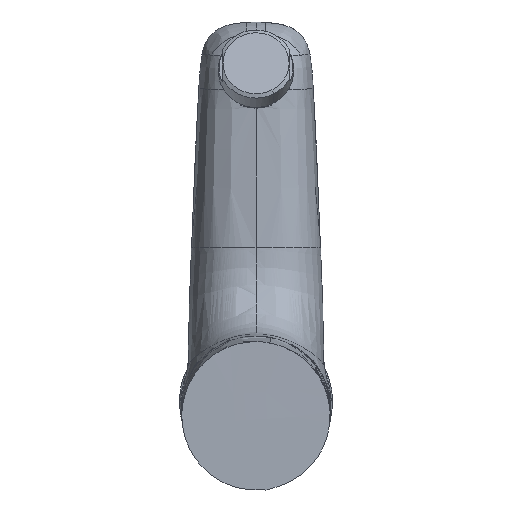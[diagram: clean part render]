
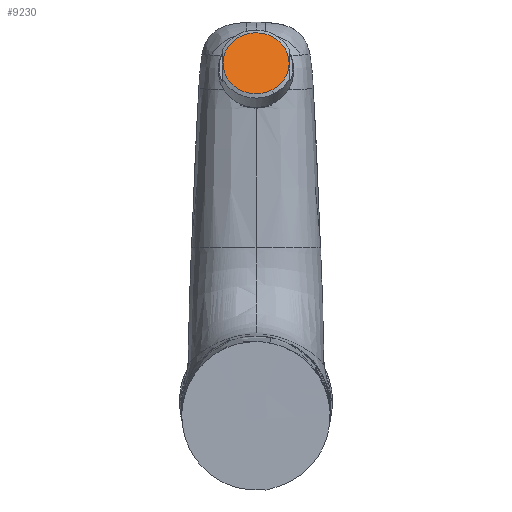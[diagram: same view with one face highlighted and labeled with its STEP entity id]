
A CAD part, front view. The second image highlights one B-rep face of the part: STEP entity #9230.
In plain terms, the highlighted planar face has unit normal (0, -0.92, 0.391).
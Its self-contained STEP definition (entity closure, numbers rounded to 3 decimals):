
#106 = DIRECTION ( 'NONE',  ( 0., -0.921, 0.391 ) ) ;
#1965 = DIRECTION ( 'NONE',  ( 1., 0., 0. ) ) ;
#3085 = CIRCLE ( 'NONE', #21564, 10.75 ) ;
#6665 = AXIS2_PLACEMENT_3D ( 'NONE', #8745, #18221, #6815 ) ;
#6815 = DIRECTION ( 'NONE',  ( -1., 0., 0. ) ) ;
#7682 = CIRCLE ( 'NONE', #15534, 10.75 ) ;
#8745 = CARTESIAN_POINT ( 'NONE',  ( -0.002, 77.722, 123.745 ) ) ;
#8778 = CARTESIAN_POINT ( 'NONE',  ( 5.155, 69.836, 105.166 ) ) ;
#9230 = ADVANCED_FACE ( 'NONE', ( #16414 ), #21948, .T. ) ;
#10924 = VERTEX_POINT ( 'NONE', #12114 ) ;
#11265 = EDGE_CURVE ( 'NONE', #16202, #10924, #3085, .T. ) ;
#12114 = CARTESIAN_POINT ( 'NONE',  ( -5.155, 77.207, 122.533 ) ) ;
#12170 = DIRECTION ( 'NONE',  ( 0., -0.921, 0.391 ) ) ;
#13139 = CARTESIAN_POINT ( 'NONE',  ( 0., 73.521, 113.85 ) ) ;
#13720 = ORIENTED_EDGE ( 'NONE', *, *, #11265, .T. ) ;
#14492 = EDGE_CURVE ( 'NONE', #10924, #16202, #7682, .T. ) ;
#15534 = AXIS2_PLACEMENT_3D ( 'NONE', #21252, #12170, #17615 ) ;
#16202 = VERTEX_POINT ( 'NONE', #8778 ) ;
#16414 = FACE_OUTER_BOUND ( 'NONE', #24037, .T. ) ;
#17615 = DIRECTION ( 'NONE',  ( 1., 0., 0. ) ) ;
#18221 = DIRECTION ( 'NONE',  ( 0., -0.921, 0.391 ) ) ;
#18809 = ORIENTED_EDGE ( 'NONE', *, *, #14492, .T. ) ;
#21252 = CARTESIAN_POINT ( 'NONE',  ( 0., 73.521, 113.85 ) ) ;
#21564 = AXIS2_PLACEMENT_3D ( 'NONE', #13139, #106, #1965 ) ;
#21948 = PLANE ( 'NONE',  #6665 ) ;
#24037 = EDGE_LOOP ( 'NONE', ( #13720, #18809 ) ) ;
